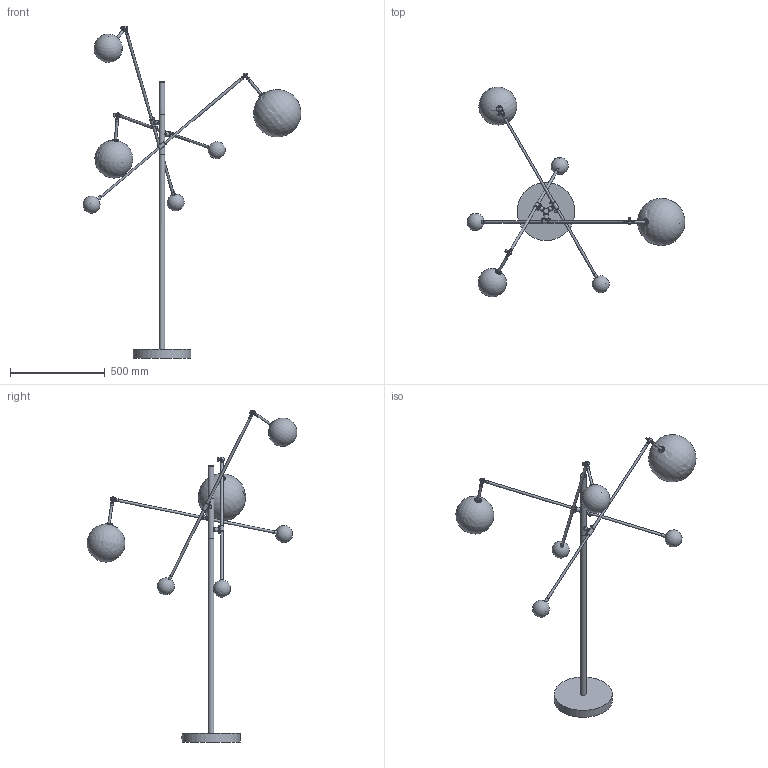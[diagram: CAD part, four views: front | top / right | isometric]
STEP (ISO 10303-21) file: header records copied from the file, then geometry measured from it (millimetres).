
FILE_DESCRIPTION(/* description */ (''),/* implementation_level */ '2;1');
FILE_NAME(/* name */ 'T:\B070 Milan 3 ARM Floor Lamp\Pliki bryłowe handlowe\B070 Milan 3 Arms 3D files\B070 Milan 3 Arms.stp',/* time_stamp */ '2022-01-19T09:54:54+01:00',/* author */ ('Mariusz Awariusz'),/* organization */ (''),/* preprocessor_version */ 'ST-DEVELOPER v18.1',/* originating_system */ 'Autodesk Inventor 2022',/* authorisation */ '');
FILE_SCHEMA (('AUTOMOTIVE_DESIGN { 1 0 10303 214 3 1 1 }'));
Length unit declared in the file: millimetre
Products named in the file (1): B070 Milan 3 Arms_jako część
Bounding box: 1147.89 x 1105.36 x 1748.58 mm (x, y, z)
Volume: 6745705.6 mm3; surface area: 1344849.7 mm2
Topology: 4 solids, 8 shells, 475 faces, 1176 edges, 747 vertices
Faces by surface type: cylinder 198, plane 147, bspline 56, cone 43, sphere 25, torus 6
Full cylindrical faces by diameter (mm): 2.693 x3, 3 x12, 4 x9, 5.5 x3, 8 x3, 10 x45, 11.6 x3, 11.917 x1, 13 x18, 15 x12, 16 x3, 16.6 x3, 18 x3, 20 x3, 22 x6, 30 x4, 33 x3, 35 x3
Entity records: 30325 total; most frequent: CARTESIAN_POINT 19718, ORIENTED_EDGE 2292, DIRECTION 2002, EDGE_CURVE 1146, AXIS2_PLACEMENT_3D 846, VERTEX_POINT 747, EDGE_LOOP 569, FACE_OUTER_BOUND 475
